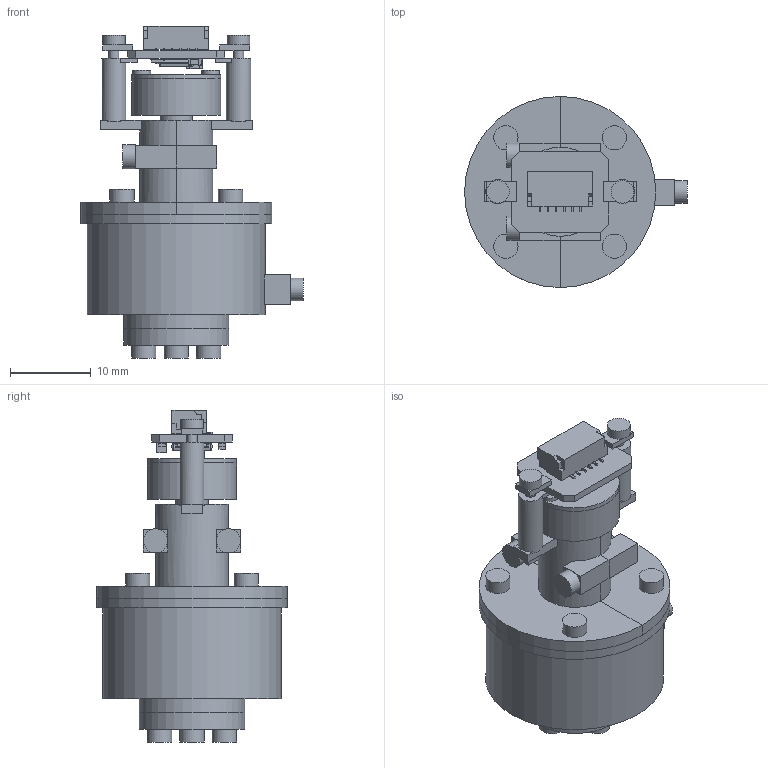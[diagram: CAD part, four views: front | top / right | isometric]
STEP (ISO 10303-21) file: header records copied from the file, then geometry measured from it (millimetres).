
FILE_DESCRIPTION(('Open CASCADE Model'),'2;1');
FILE_NAME('Open CASCADE Shape Model','2026-09-24T17:43:14',('Author'),( 'Open CASCADE'),'Open CASCADE STEP processor 7.8','Open CASCADE 7.8' ,'Unknown');
FILE_SCHEMA(('AUTOMOTIVE_DESIGN { 1 0 10303 214 1 1 1 1 }'));
Length unit declared in the file: millimetre
Products named in the file (59): Open CASCADE STEP translator 7.8 59; Open CASCADE STEP translator 7.8 59.1; Open CASCADE STEP translator 7.8 59.2; Open CASCADE STEP translator 7.8 59.3; Open CASCADE STEP translator 7.8 59.4; Open CASCADE STEP translator 7.8 59.5; Open CASCADE STEP translator 7.8 59.6; Open CASCADE STEP translator 7.8 59.7; Open CASCADE STEP translator 7.8 59.8; Open CASCADE STEP translator 7.8 59.9; Open CASCADE STEP translator 7.8 59.10; Open CASCADE STEP translator 7.8 59.11; Open CASCADE STEP translator 7.8 59.12; Open CASCADE STEP translator 7.8 59.13; Open CASCADE STEP translator 7.8 59.14; Open CASCADE STEP translator 7.8 59.15; Open CASCADE STEP translator 7.8 59.16; Open CASCADE STEP translator 7.8 59.17; Open CASCADE STEP translator 7.8 59.18; Open CASCADE STEP translator 7.8 59.19; Open CASCADE STEP translator 7.8 59.20; Open CASCADE STEP translator 7.8 59.21; Open CASCADE STEP translator 7.8 59.22; Open CASCADE STEP translator 7.8 59.23; Open CASCADE STEP translator 7.8 59.24; Open CASCADE STEP translator 7.8 59.25; Open CASCADE STEP translator 7.8 59.26; Open CASCADE STEP translator 7.8 59.27; Open CASCADE STEP translator 7.8 59.28; Open CASCADE STEP translator 7.8 59.29; Open CASCADE STEP translator 7.8 59.30; Open CASCADE STEP translator 7.8 59.31; Open CASCADE STEP translator 7.8 59.32; Open CASCADE STEP translator 7.8 59.33; Open CASCADE STEP translator 7.8 59.34; Open CASCADE STEP translator 7.8 59.35; Open CASCADE STEP translator 7.8 59.36; Open CASCADE STEP translator 7.8 59.37; Open CASCADE STEP translator 7.8 59.38; Open CASCADE STEP translator 7.8 59.39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
Assembly tree (58 placements, depth 2):
  Open CASCADE STEP translator 7.8 59
    Open CASCADE STEP translator 7.8 59.1
    Open CASCADE STEP translator 7.8 59.2
    Open CASCADE STEP translator 7.8 59.3
    Open CASCADE STEP translator 7.8 59.4
    Open CASCADE STEP translator 7.8 59.5
    Open CASCADE STEP translator 7.8 59.6
    Open CASCADE STEP translator 7.8 59.7
    Open CASCADE STEP translator 7.8 59.8
    Open CASCADE STEP translator 7.8 59.9
    Open CASCADE STEP translator 7.8 59.10
    Open CASCADE STEP translator 7.8 59.11
    Open CASCADE STEP translator 7.8 59.12
    Open CASCADE STEP translator 7.8 59.13
    Open CASCADE STEP translator 7.8 59.14
    Open CASCADE STEP translator 7.8 59.15
    Open CASCADE STEP translator 7.8 59.16
    Open CASCADE STEP translator 7.8 59.17
    Open CASCADE STEP translator 7.8 59.18
    Open CASCADE STEP translator 7.8 59.19
    Open CASCADE STEP translator 7.8 59.20
    Open CASCADE STEP translator 7.8 59.21
    Open CASCADE STEP translator 7.8 59.22
    Open CASCADE STEP translator 7.8 59.23
    Open CASCADE STEP translator 7.8 59.24
    Open CASCADE STEP translator 7.8 59.25
    Open CASCADE STEP translator 7.8 59.26
    Open CASCADE STEP translator 7.8 59.27
    Open CASCADE STEP translator 7.8 59.28
    Open CASCADE STEP translator 7.8 59.29
    Open CASCADE STEP translator 7.8 59.30
    Open CASCADE STEP translator 7.8 59.31
    Open CASCADE STEP translator 7.8 59.32
    Open CASCADE STEP translator 7.8 59.33
    Open CASCADE STEP translator 7.8 59.34
    Open CASCADE STEP translator 7.8 59.35
    Open CASCADE STEP translator 7.8 59.36
    Open CASCADE STEP translator 7.8 59.37
    Open CASCADE STEP translator 7.8 59.38
    Open CASCADE STEP translator 7.8 59.39
    Open CASCADE STEP translator 7.8 59.40
    Open CASCADE STEP translator 7.8 59.41
    Open CASCADE STEP translator 7.8 59.42
    Open CASCADE STEP translator 7.8 59.43
    Open CASCADE STEP translator 7.8 59.44
    Open CASCADE STEP translator 7.8 59.45
    Open CASCADE STEP translator 7.8 59.46
    Open CASCADE STEP translator 7.8 59.47
    Open CASCADE STEP translator 7.8 59.48
    Open CASCADE STEP translator 7.8 59.49
    Open CASCADE STEP translator 7.8 59.50
    Open CASCADE STEP translator 7.8 59.51
    Open CASCADE STEP translator 7.8 59.52
    Open CASCADE STEP translator 7.8 59.53
    Open CASCADE STEP translator 7.8 59.54
    Open CASCADE STEP translator 7.8 59.55
    Open CASCADE STEP translator 7.8 59.56
    Open CASCADE STEP translator 7.8 59.57
    Open CASCADE STEP translator 7.8 59.58
Bounding box: 27.5 x 23.6 x 40.99 mm (x, y, z)
Volume: 6519.9 mm3; surface area: 12056.8 mm2
Topology: 58 solids, 58 shells, 1315 faces, 3327 edges, 2175 vertices
Faces by surface type: plane 729, cylinder 365, bspline 207, cone 14
Full cylindrical faces by diameter (mm): 0.8 x1, 0.96 x2, 1 x2, 1.24 x2, 1.26 x2, 1.28 x10, 1.3 x7, 1.32 x11, 1.7 x18, 1.8 x1, 2.2 x2, 2.8 x3, 3 x13, 4 x2, 4.2 x4, 4.3 x2, 4.5 x1, 4.7 x1, 4.8 x1, 5.2 x4, 5.6 x2, 6 x1, 6.02 x1, 6.1 x1, 6.2 x1, 8 x4, 8.06 x2, 8.08 x1, 8.16 x1, 8.8 x2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
Entity records: 149081 total; most frequent: CARTESIAN_POINT 85536, DIRECTION 10114, ORIENTED_EDGE 6654, PCURVE 6654, DEFINITIONAL_REPRESENTATION 6654, LINE 5956, VECTOR 5956, EDGE_CURVE 3327
